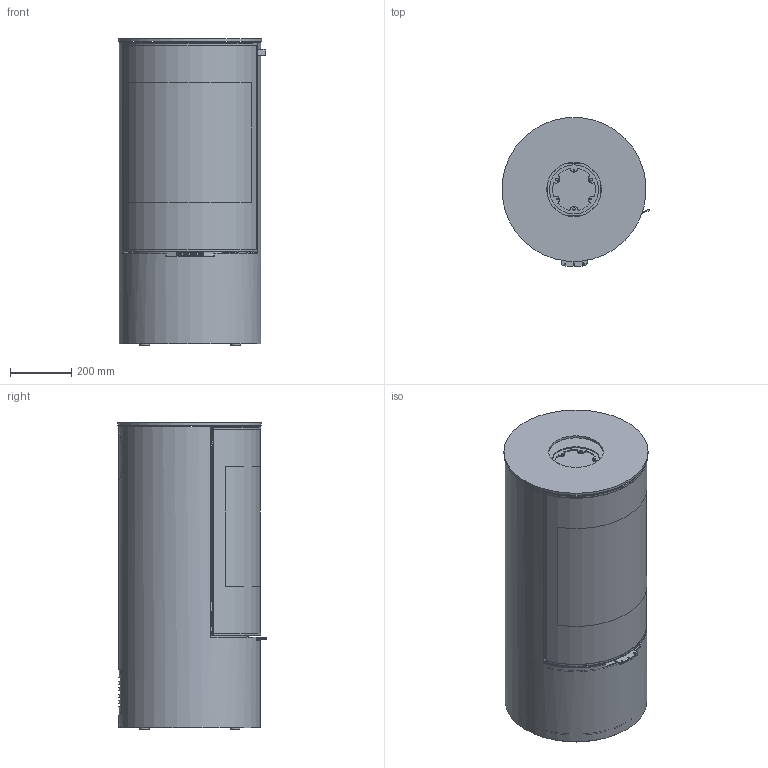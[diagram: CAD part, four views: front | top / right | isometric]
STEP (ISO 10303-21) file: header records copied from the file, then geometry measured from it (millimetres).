
FILE_DESCRIPTION(/* description */ (''),/* implementation_level */ '2;1');
FILE_NAME(/* name */ 'C:\WF\Designs\PROJEKTER\2016 Projekt\171\Simplified Models\Simplified-27190USA.stp',/* time_stamp */ '2019-09-17T09:36:38+02:00',/* author */ ('ksj'),/* organization */ (''),/* preprocessor_version */ 'ST-DEVELOPER v18',/* originating_system */ 'Autodesk Inventor 2020',/* authorisation */ '');
FILE_SCHEMA (('AUTOMOTIVE_DESIGN { 1 0 10303 214 3 1 1 }'));
Products named in the file (1): Simplified-27190USA
Bounding box: 480.91 x 483.85 x 1000 mm (x, y, z)
Volume: 16346541.6 mm3; surface area: 6904360.4 mm2
Topology: 51 solids, 52 shells, 2952 faces, 8217 edges, 5351 vertices
Faces by surface type: plane 1477, cylinder 1112, bspline 139, cone 111, torus 107, sphere 6
Full cylindrical faces by diameter (mm): 3.2 x1, 4.134 x7, 4.2 x42, 4.5 x43, 4.917 x3, 5 x2, 5.5 x2, 6 x3, 6.75 x4, 7 x1, 8 x7, 9.5 x1, 10 x4, 10.2 x2, 12 x6, 32 x4, 160 x1, 178 x1, 456 x1, 462 x1, 470 x1
Entity records: 115675 total; most frequent: CARTESIAN_POINT 35445, ORIENTED_EDGE 16399, DIRECTION 15867, EDGE_CURVE 8204, AXIS2_PLACEMENT_3D 5488, VERTEX_POINT 5351, LINE 4891, VECTOR 4891
